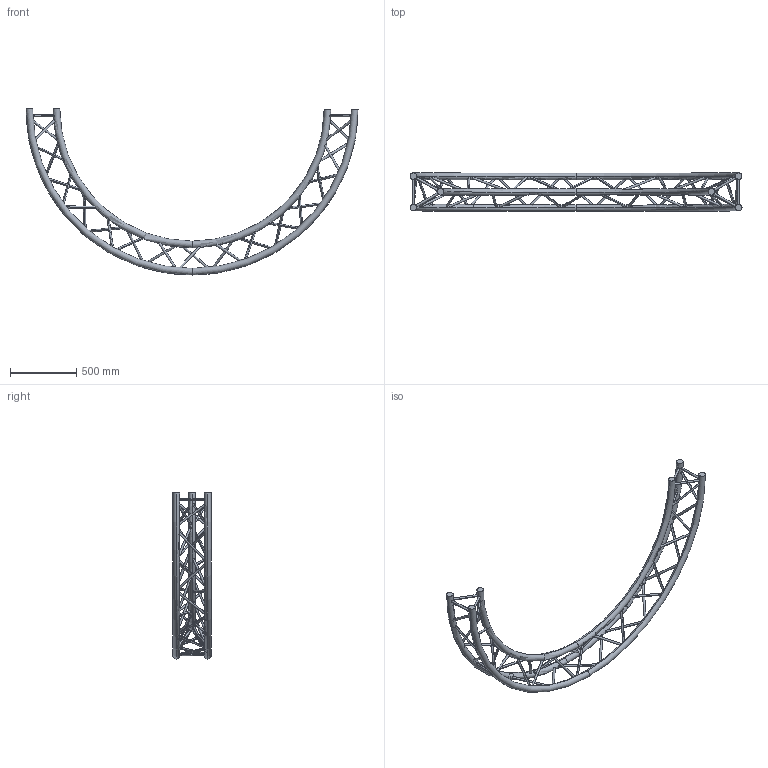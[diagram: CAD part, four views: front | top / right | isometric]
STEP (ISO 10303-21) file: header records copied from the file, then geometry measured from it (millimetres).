
FILE_DESCRIPTION (( 'STEP AP203' ), '1' );
FILE_NAME ('SXC29250PI.STEP', '2009-10-21T08:57:36', ( 'CEDIA' ), ( 'CEDIA INDUSTRIE' ), 'SwSTEP 2.0', 'SolidWorks 2009', '' );
FILE_SCHEMA (( 'CONFIG_CONTROL_DESIGN' ));
Length unit declared in the file: millimetre
Products named in the file (1): SXC29250PI
Bounding box: 2500 x 287 x 1250 mm (x, y, z)
Volume: 23947681.9 mm3; surface area: 2334614.4 mm2
Topology: 1 solids, 1 shells, 120 faces, 336 edges, 222 vertices
Faces by surface type: cylinder 102, torus 12, plane 6
Entity records: 13183 total; most frequent: CARTESIAN_POINT 10195, ORIENTED_EDGE 672, DIRECTION 404, EDGE_CURVE 336, VERTEX_POINT 222, EDGE_LOOP 222, B_SPLINE_CURVE_WITH_KNOTS 204, AXIS2_PLACEMENT_3D 151
